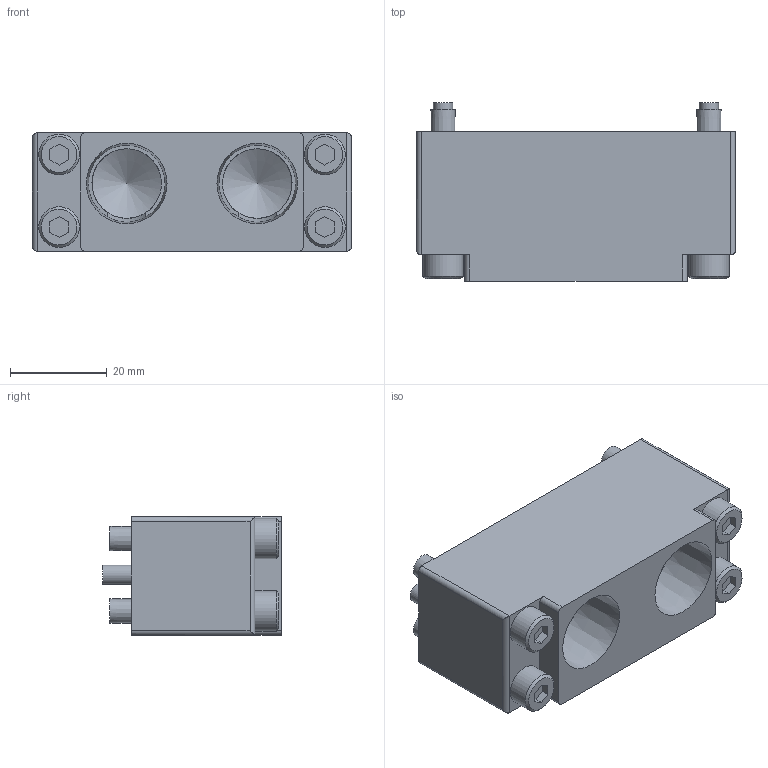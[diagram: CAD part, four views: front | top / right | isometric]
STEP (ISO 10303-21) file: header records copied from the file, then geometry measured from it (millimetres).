
FILE_DESCRIPTION(('STEP AP214'),'1');
FILE_NAME('KHB-45_300RS-EP102_ver1.stp','2026-04-27T05:41:21',(' '),(' '),'Spatial InterOp 3D',' ',' ');
FILE_SCHEMA(('AUTOMOTIVE_DESIGN { 1 0 10303 214 1 1 1 1 }'));
Length unit declared in the file: millimetre
Products named in the file (3): KHB-45~300RS-EP102_ver1; パーツ1
Assembly tree (2 placements, depth 2):
  KHB-45~300RS-EP102_ver1
    パーツ1
    パーツ1
Bounding box: 66 x 37 x 24.5 mm (x, y, z)
Volume: 37903.3 mm3; surface area: 15434 mm2
Topology: 2 solids, 3 shells, 103 faces, 238 edges, 157 vertices
Faces by surface type: plane 60, cylinder 31, cone 12
Full cylindrical faces by diameter (mm): 4 x3, 5 x4, 5.5 x4, 8.385 x4, 12 x2, 14.4 x2
Entity records: 3632 total; most frequent: CARTESIAN_POINT 564, DIRECTION 466, ORIENTED_EDGE 380, EDGE_CURVE 190, AXIS2_PLACEMENT_3D 174, EDGE_LOOP 154, VERTEX_POINT 142, FACE_OUTER_BOUND 122
